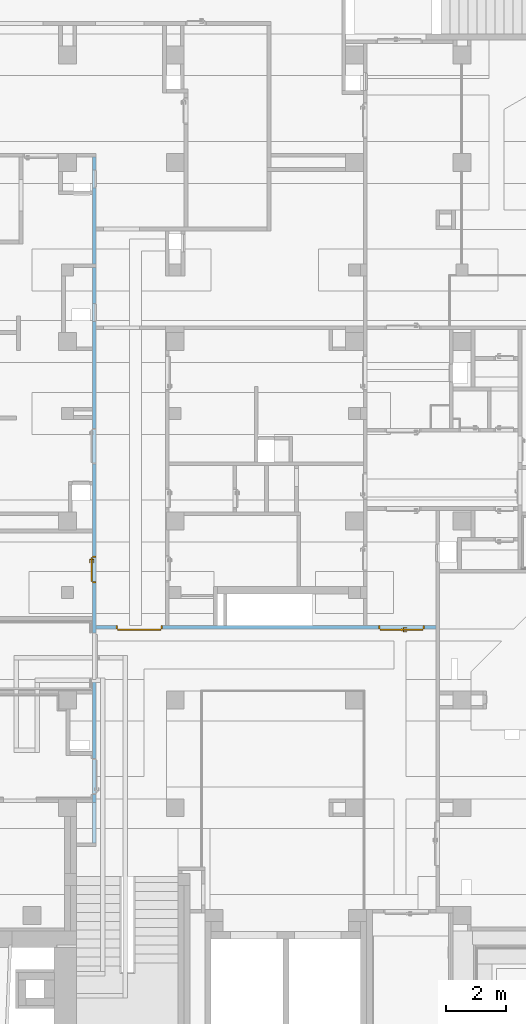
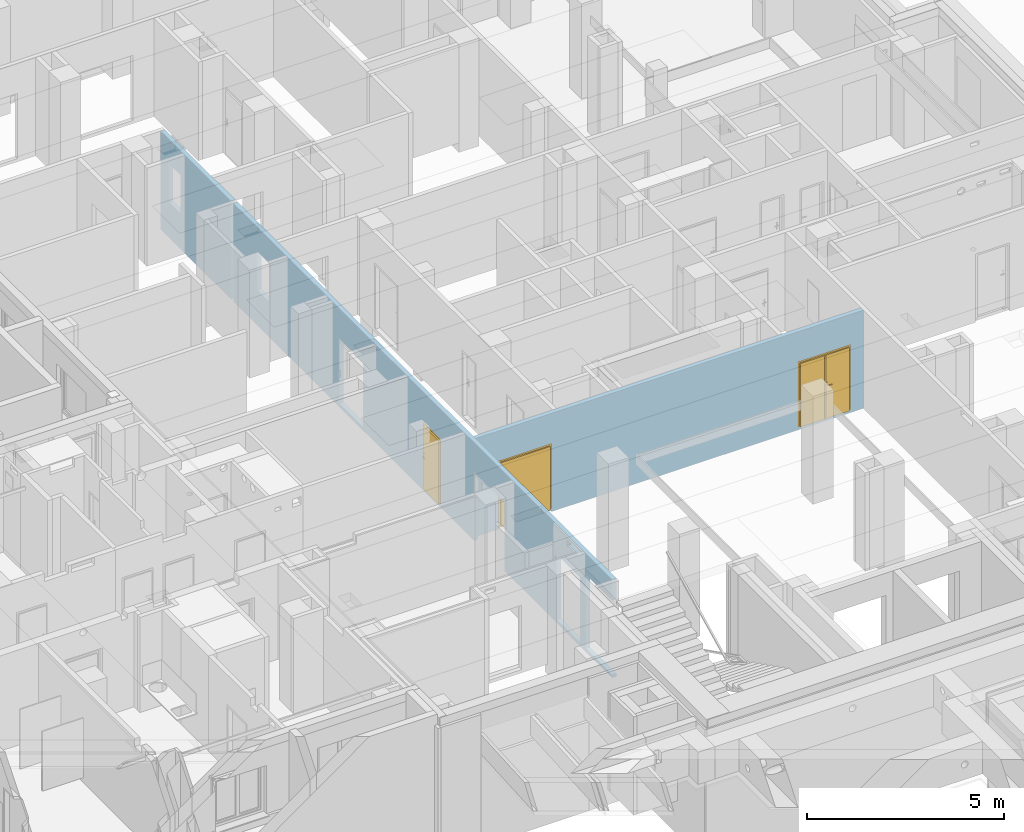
# One storey, part 67 of 84: 3 doors, 10 openings, plus 2 elements that do not belong to this part.
"""IFC4 building model written with IfcOpenShell, lengths in metres."""

from ifc_helpers import new_model, entity, si_unit, converted_unit, derived_unit, frame, frame_2d, origin, origin_with_axes, place, context, subcontext, project, spatial, polyline, rectangle, outline, extrude, closed_shell, open_shell, surface_model, source, transform, mapped, material, layer, layer_set, layer_usage, type_object, element, fill, save


model = new_model("IFC4")

# Units and contexts
model_context = context("Model", 3, precision=1e-05, world=origin())
body_context = subcontext(model_context, "Body", "Model", "MODEL_VIEW")
ifc_project = project(units=[si_unit("LENGTHUNIT", "METRE"), si_unit("AREAUNIT", "SQUARE_METRE"), si_unit("VOLUMEUNIT", "CUBIC_METRE"), si_unit("MASSUNIT", "GRAM", prefix="KILO"), converted_unit("PLANEANGLEUNIT", "DEGREE", entity("IfcPlaneAngleMeasure", 0.0174532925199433), si_unit("PLANEANGLEUNIT", "RADIAN"), dimensions=[0, 0, 0, 0, 0, 0, 0]), derived_unit("THERMALTRANSMITTANCEUNIT", [(si_unit("POWERUNIT", "WATT"), 1), (si_unit("THERMODYNAMICTEMPERATUREUNIT", "KELVIN"), -1), (si_unit("LENGTHUNIT", "METRE"), -2)]), derived_unit("VOLUMETRICFLOWRATEUNIT", [(si_unit("LENGTHUNIT", "METRE"), 3), (converted_unit("TIMEUNIT", "hour", entity("IfcTimeMeasure", 3600.0), si_unit("TIMEUNIT", "SECOND"), dimensions=[0, 0, 1, 0, 0, 0, 0]), -1), (si_unit("LENGTHUNIT", "METRE"), -1)])], contexts=[model_context])

# Site, building, storey
site_placement = place(None, origin())
site = spatial("IfcSite", under=ifc_project, at=site_placement, Name="3. ASŘ", CompositionType="ELEMENT")
building_placement = place(site_placement, origin())
building = spatial("IfcBuilding", under=site, at=building_placement, Name="Pavilon C", CompositionType="ELEMENT")
storey_placement = place(building_placement, frame((0.0, 0.0, -3.3)))
storey = spatial("IfcBuildingStorey", under=building, at=storey_placement, Name="Půdorys 1.PP", CompositionType="ELEMENT", Elevation=-3.3)

# Wall, openings, doors
ifc_material_1 = material(Name="ZDIVO Z CDm")
ifc_layer = layer(ifc_material_1, 0.125)
ifc_layer_set = layer_set([ifc_layer])
ifc_layer_usage = layer_usage(ifc_layer_set, "AXIS2", "POSITIVE", 0.0)
wall_1_placement = place(storey_placement, frame((43.075, 9.69999999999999, -0.1), z_axis=(0.0, 0.0, 1.0), x_axis=(-1.0, 0.0, 0.0)))
wall_1 = element("IfcWall", 1, at=wall_1_placement, inside=storey, material=ifc_layer_usage, Name="ZDIVO Z CDm", context=body_context, shape_type="SweptSolid", body=[
    extrude(rectangle(XDim=11.375, YDim=0.125, at=frame_2d((5.6875, 0.0625), x_axis=(1.0, 0.0))), origin_with_axes(), (0.0, 0.0, 1.0), 3.05),
])
opening_1_placement = place(wall_1_placement, frame((10.7, 0.125, 0.0), z_axis=(0.0, -1.0, 0.0), x_axis=(0.0, 0.0, 1.0)))
opening_1 = element("IfcOpeningElement", 2, at=opening_1_placement, cuts=wall_1, Name="Dveřní otvor", ObjectType="Opening", context=body_context, shape_type="SweptSolid", body=[
    extrude(outline(polyline([(0.0, 1.55), (2.12, 1.55), (2.12, 0.0), (0.0, 0.0), (0.0, 1.55)])), origin_with_axes(), (0.0, 0.0, 1.0), 0.125),
])
opening_2_placement = place(wall_1_placement, frame((0.375, 0.0, 0.1), z_axis=(0.0, 1.0, 0.0), x_axis=(0.0, 0.0, 1.0)))
opening_2 = element("IfcOpeningElement", 3, at=opening_2_placement, cuts=wall_1, Name="Dveřní otvor", ObjectType="Opening", context=body_context, shape_type="SweptSolid", body=[
    extrude(outline(polyline([(0.0, 1.55), (2.02, 1.55), (2.02, 0.0), (0.0, 0.0), (0.0, 1.55)])), origin_with_axes(), (0.0, 0.0, 1.0), 0.125),
])
door_type_1 = type_object("IfcDoorType", Name="D401", OperationType="NOTDEFINED", ParameterTakesPrecedence=False, PredefinedType="DOOR")
shared_shape_1 = source(origin_with_axes(), body_context, "Body", "SurfaceModel", [
    surface_model("IfcShellBasedSurfaceModel", [(0.0, 0.0625, 0.0), (1.55, 0.0625, 0.0), (1.55, 0.0625, 0.099), (0.0, 0.0625, 0.099)], [open_shell([[[0, 1, 2, 3]]], orient=[[False]])]),
    surface_model("IfcShellBasedSurfaceModel", [(0.0, 0.125, 2.12), (0.0, 0.125, 0.1), (0.05, 0.125, 0.1), (0.05, 0.125, 2.12), (0.0, 0.0, 0.1), (0.0, 2.41584530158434e-16, 2.12), (0.05, 2.41584530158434e-16, 2.12), (0.05, 0.0, 0.1)], [closed_shell([[[0, 1, 2, 3]], [[4, 5, 6, 7]], [[1, 0, 5, 4]], [[2, 1, 4, 7]], [[3, 2, 7, 6]], [[0, 3, 6, 5]]], orient=[[False], [False], [False], [False], [False], [False]])]),
    surface_model("IfcShellBasedSurfaceModel", [(1.5, 0.125, 2.12), (1.5, 0.125, 0.1), (1.55, 0.125, 0.1), (1.55, 0.125, 2.12), (1.5, 0.0, 0.1), (1.5, 2.41584530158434e-16, 2.12), (1.55, 2.41584530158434e-16, 2.12), (1.55, 0.0, 0.1)], [closed_shell([[[0, 1, 2, 3]], [[4, 5, 6, 7]], [[1, 0, 5, 4]], [[2, 1, 4, 7]], [[3, 2, 7, 6]], [[0, 3, 6, 5]]], orient=[[False], [False], [False], [False], [False], [False]])]),
    surface_model("IfcShellBasedSurfaceModel", [(0.05, 0.125, 2.12), (0.05, 0.125, 2.07), (1.5, 0.125, 2.07), (1.5, 0.125, 2.12), (0.05, 2.41584530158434e-16, 2.07), (0.05, 2.41584530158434e-16, 2.12), (1.5, 2.41584530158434e-16, 2.12), (1.5, 2.41584530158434e-16, 2.07)], [closed_shell([[[0, 1, 2, 3]], [[4, 5, 6, 7]], [[1, 0, 5, 4]], [[2, 1, 4, 7]], [[3, 2, 7, 6]], [[0, 3, 6, 5]]], orient=[[False], [False], [False], [False], [False], [False]])]),
    surface_model("IfcShellBasedSurfaceModel", [(0.05, 0.165, 2.07), (0.05, 0.165, 0.1), (0.7745, 0.165, 0.1), (0.7745, 0.165, 2.07), (0.05, 0.125, 0.1), (0.05, 0.125, 2.07), (0.7745, 0.125, 2.07), (0.7745, 0.125, 0.1)], [closed_shell([[[0, 1, 2, 3]], [[4, 5, 6, 7]], [[1, 0, 5, 4]], [[2, 1, 4, 7]], [[3, 2, 7, 6]], [[0, 3, 6, 5]]], orient=[[False], [False], [False], [False], [False], [False]])]),
    surface_model("IfcShellBasedSurfaceModel", [(0.7755, 0.165, 2.07), (0.7755, 0.165, 0.1), (1.5, 0.165, 0.1), (1.5, 0.165, 2.07), (0.7755, 0.125, 0.1), (0.7755, 0.125, 2.07), (1.5, 0.125, 2.07), (1.5, 0.125, 0.1)], [closed_shell([[[0, 1, 2, 3]], [[4, 5, 6, 7]], [[1, 0, 5, 4]], [[2, 1, 4, 7]], [[3, 2, 7, 6]], [[0, 3, 6, 5]]], orient=[[False], [False], [False], [False], [False], [False]])]),
])
door_1_placement = place(opening_1_placement, frame((0.0, 1.55, 0.125), z_axis=(1.0, 0.0, 0.0), x_axis=(0.0, -1.0, 1.22464679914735e-16)))
door_1 = element("IfcDoor", 4, at=door_1_placement, inside=storey, type_object=door_type_1, Name="D401", OverallHeight=2.12, OverallWidth=1.55, context=body_context, shape_type="MappedRepresentation", body=[
    mapped(shared_shape_1, transform((0.0, 0.0, 0.0), x_axis=(1.0, 0.0, 0.0), y_axis=(0.0, 1.0, 0.0), z_axis=(0.0, 0.0, 1.0), scale=1.0)),
])
fill(opening_1, door_1)
door_type_2 = type_object("IfcDoorType", Name="D401", OperationType="NOTDEFINED", ParameterTakesPrecedence=False, PredefinedType="DOOR")
shared_shape_2 = source(origin_with_axes(), body_context, "Body", "SurfaceModel", [
    surface_model("IfcShellBasedSurfaceModel", [(0.0, 0.125, 2.02), (0.0, 0.125, -7.65404249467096e-18), (0.05, 0.125, -7.65404249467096e-18), (0.05, 0.125, 2.02), (0.0, 0.0, 7.65404249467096e-18), (0.0, 2.41584530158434e-16, 2.02), (0.05, 2.41584530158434e-16, 2.02), (0.05, 0.0, 7.65404249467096e-18)], [closed_shell([[[0, 1, 2, 3]], [[4, 5, 6, 7]], [[1, 0, 5, 4]], [[2, 1, 4, 7]], [[3, 2, 7, 6]], [[0, 3, 6, 5]]], orient=[[False], [False], [False], [False], [False], [False]])]),
    surface_model("IfcShellBasedSurfaceModel", [(1.5, 0.125, 2.02), (1.5, 0.125, -7.65404249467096e-18), (1.55, 0.125, -7.65404249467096e-18), (1.55, 0.125, 2.02), (1.5, 0.0, 7.65404249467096e-18), (1.5, 2.41584530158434e-16, 2.02), (1.55, 2.41584530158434e-16, 2.02), (1.55, 0.0, 7.65404249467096e-18)], [closed_shell([[[0, 1, 2, 3]], [[4, 5, 6, 7]], [[1, 0, 5, 4]], [[2, 1, 4, 7]], [[3, 2, 7, 6]], [[0, 3, 6, 5]]], orient=[[False], [False], [False], [False], [False], [False]])]),
    surface_model("IfcShellBasedSurfaceModel", [(0.05, 0.125, 2.02), (0.05, 0.125, 1.97), (1.5, 0.125, 1.97), (1.5, 0.125, 2.02), (0.05, 2.41584530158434e-16, 1.97), (0.05, 2.41584530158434e-16, 2.02), (1.5, 2.41584530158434e-16, 2.02), (1.5, 2.41584530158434e-16, 1.97)], [closed_shell([[[0, 1, 2, 3]], [[4, 5, 6, 7]], [[1, 0, 5, 4]], [[2, 1, 4, 7]], [[3, 2, 7, 6]], [[0, 3, 6, 5]]], orient=[[False], [False], [False], [False], [False], [False]])]),
    surface_model("IfcShellBasedSurfaceModel", [(0.05, 0.165, 1.97), (0.05, 0.165, -1.25526296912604e-17), (0.7745, 0.165, -1.25526296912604e-17), (0.7745, 0.165, 1.97), (0.05, 0.125, -7.65404249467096e-18), (0.05, 0.125, 1.97), (0.7745, 0.125, 1.97), (0.7745, 0.125, -7.65404249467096e-18)], [closed_shell([[[0, 1, 2, 3]], [[4, 5, 6, 7]], [[1, 0, 5, 4]], [[2, 1, 4, 7]], [[3, 2, 7, 6]], [[0, 3, 6, 5]]], orient=[[False], [False], [False], [False], [False], [False]])]),
    surface_model("IfcShellBasedSurfaceModel", [(0.7545, 0.165, 1.97), (0.7945, 0.165, 1.97), (0.7945, 0.165, -1.25526296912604e-17), (0.7545, 0.165, -1.25526296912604e-17), (0.7545, 0.185, -1.50019232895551e-17), (0.7945, 0.185, -1.50019232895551e-17), (0.7945, 0.185, 1.97), (0.7545, 0.185, 1.97)], [closed_shell([[[0, 1, 2, 3]], [[4, 5, 6, 7]], [[3, 4, 7, 0]], [[2, 5, 4, 3]], [[1, 6, 5, 2]], [[0, 7, 6, 1]]], orient=[[False], [False], [False], [False], [False], [False]])]),
    surface_model("IfcShellBasedSurfaceModel", [(0.6845, 0.125, 1.125), (0.6845, 0.125, 0.91), (0.7345, 0.125, 0.91), (0.7345, 0.125, 1.125), (0.6845, 0.115, 0.91), (0.6845, 0.115, 1.125), (0.7345, 0.115, 1.125), (0.7345, 0.115, 0.91)], [closed_shell([[[0, 1, 2, 3]], [[4, 5, 6, 7]], [[1, 0, 5, 4]], [[2, 1, 4, 7]], [[3, 2, 7, 6]], [[0, 3, 6, 5]]], orient=[[False], [False], [False], [False], [False], [False]])]),
    surface_model("IfcShellBasedSurfaceModel", [(0.7095, 0.115, 1.06), (0.7045, 0.115, 1.05866025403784), (0.700839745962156, 0.115, 1.055), (0.6995, 0.115, 1.05), (0.700839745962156, 0.115, 1.045), (0.7045, 0.115, 1.04133974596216), (0.7095, 0.115, 1.04), (0.7145, 0.115, 1.04133974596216), (0.718160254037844, 0.115, 1.045), (0.7195, 0.115, 1.05), (0.718160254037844, 0.115, 1.055), (0.7145, 0.115, 1.05866025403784), (0.7145, 0.0700000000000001, 1.05866025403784), (0.7095, 0.0750000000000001, 1.06), (0.718160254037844, 0.0663397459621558, 1.055), (0.7195, 0.0650000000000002, 1.05), (0.718160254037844, 0.0663397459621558, 1.045), (0.7145, 0.0700000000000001, 1.04133974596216), (0.7095, 0.0750000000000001, 1.04), (0.7045, 0.0800000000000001, 1.04133974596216), (0.700839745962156, 0.0836602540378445, 1.045), (0.6995, 0.0850000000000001, 1.05), (0.700839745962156, 0.0836602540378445, 1.055), (0.7045, 0.0800000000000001, 1.05866025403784), (0.5945, 0.0700000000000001, 1.05866025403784), (0.5945, 0.0750000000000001, 1.06), (0.5945, 0.0663397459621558, 1.055), (0.5945, 0.0650000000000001, 1.05), (0.5945, 0.0663397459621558, 1.045), (0.5945, 0.0700000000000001, 1.04133974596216), (0.5945, 0.0750000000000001, 1.04), (0.5945, 0.0800000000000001, 1.04133974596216), (0.5945, 0.0836602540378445, 1.045), (0.5945, 0.0850000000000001, 1.05), (0.5945, 0.0836602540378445, 1.055), (0.5945, 0.0800000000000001, 1.05866025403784)], [open_shell([[[0, 1, 2, 3, 4, 5, 6, 7, 8, 9, 10, 11]], [[0, 11, 12, 13]], [[11, 10, 14, 12]], [[10, 9, 15, 14]], [[9, 8, 16, 15]], [[8, 7, 17, 16]], [[7, 6, 18, 17]], [[6, 5, 19, 18]], [[5, 4, 20, 19]], [[4, 3, 21, 20]], [[3, 2, 22, 21]], [[2, 1, 23, 22]], [[1, 0, 13, 23]], [[13, 12, 24, 25]], [[12, 14, 26, 24]], [[14, 15, 27, 26]], [[15, 16, 28, 27]], [[16, 17, 29, 28]], [[17, 18, 30, 29]], [[18, 19, 31, 30]], [[19, 20, 32, 31]], [[20, 21, 33, 32]], [[21, 22, 34, 33]], [[22, 23, 35, 34]], [[23, 13, 25, 35]]], orient=[[False], [False], [False], [False], [False], [False], [False], [False], [False], [False], [False], [False], [False], [False], [False], [False], [False], [False], [False], [False], [False], [False], [False], [False], [False]])]),
    surface_model("IfcShellBasedSurfaceModel", [(0.6845, 0.165, 1.125), (0.7345, 0.165, 1.125), (0.7345, 0.165, 0.91), (0.6845, 0.165, 0.91), (0.6845, 0.175, 0.91), (0.7345, 0.175, 0.91), (0.7345, 0.175, 1.125), (0.6845, 0.175, 1.125)], [closed_shell([[[0, 1, 2, 3]], [[4, 5, 6, 7]], [[3, 4, 7, 0]], [[2, 5, 4, 3]], [[1, 6, 5, 2]], [[0, 7, 6, 1]]], orient=[[False], [False], [False], [False], [False], [False]])]),
    surface_model("IfcShellBasedSurfaceModel", [(0.7095, 0.175, 1.06), (0.7145, 0.175, 1.05866025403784), (0.718160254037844, 0.175, 1.055), (0.7195, 0.175, 1.05), (0.718160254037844, 0.175, 1.045), (0.7145, 0.175, 1.04133974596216), (0.7095, 0.175, 1.04), (0.7045, 0.175, 1.04133974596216), (0.700839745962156, 0.175, 1.045), (0.6995, 0.175, 1.05), (0.700839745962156, 0.175, 1.055), (0.7045, 0.175, 1.05866025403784), (0.7095, 0.215, 1.06), (0.7145, 0.22, 1.05866025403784), (0.718160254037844, 0.223660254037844, 1.055), (0.7195, 0.225, 1.05), (0.718160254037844, 0.223660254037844, 1.045), (0.7145, 0.22, 1.04133974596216), (0.7095, 0.215, 1.04), (0.7045, 0.21, 1.04133974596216), (0.700839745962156, 0.206339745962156, 1.045), (0.6995, 0.205, 1.05), (0.700839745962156, 0.206339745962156, 1.055), (0.7045, 0.21, 1.05866025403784), (0.5945, 0.215, 1.06), (0.5945, 0.22, 1.05866025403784), (0.5945, 0.223660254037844, 1.055), (0.5945, 0.225, 1.05), (0.5945, 0.223660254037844, 1.045), (0.5945, 0.22, 1.04133974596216), (0.5945, 0.215, 1.04), (0.5945, 0.21, 1.04133974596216), (0.5945, 0.206339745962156, 1.045), (0.5945, 0.205, 1.05), (0.5945, 0.206339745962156, 1.055), (0.5945, 0.21, 1.05866025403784)], [open_shell([[[0, 1, 2, 3, 4, 5, 6, 7, 8, 9, 10, 11]], [[0, 12, 13, 1]], [[1, 13, 14, 2]], [[2, 14, 15, 3]], [[3, 15, 16, 4]], [[4, 16, 17, 5]], [[5, 17, 18, 6]], [[6, 18, 19, 7]], [[7, 19, 20, 8]], [[8, 20, 21, 9]], [[9, 21, 22, 10]], [[10, 22, 23, 11]], [[11, 23, 12, 0]], [[12, 24, 25, 13]], [[13, 25, 26, 14]], [[14, 26, 27, 15]], [[15, 27, 28, 16]], [[16, 28, 29, 17]], [[17, 29, 30, 18]], [[18, 30, 31, 19]], [[19, 31, 32, 20]], [[20, 32, 33, 21]], [[21, 33, 34, 22]], [[22, 34, 35, 23]], [[23, 35, 24, 12]]], orient=[[False], [False], [False], [False], [False], [False], [False], [False], [False], [False], [False], [False], [False], [False], [False], [False], [False], [False], [False], [False], [False], [False], [False], [False], [False]])]),
    surface_model("IfcShellBasedSurfaceModel", [(0.7755, 0.165, 1.97), (0.7755, 0.165, -1.25526296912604e-17), (1.5, 0.165, -1.25526296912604e-17), (1.5, 0.165, 1.97), (0.7755, 0.125, -7.65404249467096e-18), (0.7755, 0.125, 1.97), (1.5, 0.125, 1.97), (1.5, 0.125, -7.65404249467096e-18)], [closed_shell([[[0, 1, 2, 3]], [[4, 5, 6, 7]], [[1, 0, 5, 4]], [[2, 1, 4, 7]], [[3, 2, 7, 6]], [[0, 3, 6, 5]]], orient=[[False], [False], [False], [False], [False], [False]])]),
    surface_model("IfcShellBasedSurfaceModel", [(0.7555, 0.125, 1.97), (0.7555, 0.125, -7.65404249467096e-18), (0.7955, 0.125, -7.65404249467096e-18), (0.7955, 0.125, 1.97), (0.7555, 0.105, -5.20474889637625e-18), (0.7555, 0.105, 1.97), (0.7955, 0.105, 1.97), (0.7955, 0.105, -5.20474889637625e-18)], [closed_shell([[[0, 1, 2, 3]], [[4, 5, 6, 7]], [[1, 0, 5, 4]], [[2, 1, 4, 7]], [[3, 2, 7, 6]], [[0, 3, 6, 5]]], orient=[[False], [False], [False], [False], [False], [False]])]),
])
door_2_placement = place(opening_2_placement, frame((0.0, 0.0, 0.0), z_axis=(1.0, 0.0, 0.0), x_axis=(0.0, 1.0, -1.22464679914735e-16)))
door_2 = element("IfcDoor", 5, at=door_2_placement, inside=storey, type_object=door_type_2, Name="D401", OverallHeight=2.02, OverallWidth=1.55, context=body_context, shape_type="MappedRepresentation", body=[
    mapped(shared_shape_2, transform((0.0, 0.0, 0.0), x_axis=(1.0, 0.0, 0.0), y_axis=(0.0, 1.0, 0.0), z_axis=(0.0, 0.0, 1.0), scale=1.0)),
])
fill(opening_2, door_2)

# Wall, openings, door
ifc_material_2 = material(Name="ZDIVO Z CDm")
wall_2_placement = place(storey_placement, frame((31.575, 25.375, -0.1), z_axis=(0.0, 0.0, 1.0), x_axis=(0.0, -1.0, 0.0)))
wall_2 = element("IfcWall", 6, at=wall_2_placement, inside=storey, material=ifc_material_2, Name="ZDIVO Z CDm", context=body_context, shape_type="SweptSolid", body=[
    extrude(rectangle(XDim=19.25, YDim=0.125, at=frame_2d((-9.625, -0.0625), x_axis=(-1.0, 0.0))), frame((22.95, 0.125, 0.0), z_axis=(0.0, 0.0, 1.0), x_axis=(1.0, 0.0, 0.0)), (0.0, 0.0, 1.0), 3.05),
    extrude(rectangle(XDim=3.575, YDim=0.125, at=frame_2d((1.7875, 0.0625), x_axis=(1.0, 0.0))), origin_with_axes(), (0.0, 0.0, 1.0), 3.05),
])
opening_3_placement = place(wall_2_placement, frame((15.925, 0.0, 0.0), z_axis=(0.0, 1.0, 0.0), x_axis=(0.0, 0.0, 1.0)))
element("IfcOpeningElement", 7, at=opening_3_placement, cuts=wall_2, Name="Dveřní otvor", ObjectType="Opening", context=body_context, shape_type="SweptSolid", body=[
    extrude(outline(polyline([(0.0, 1.55), (2.12, 1.55), (2.12, 0.0), (0.0, 0.0), (0.0, 1.55)])), origin_with_axes(), (0.0, 0.0, 1.0), 0.125),
])
opening_4_placement = place(wall_2_placement, frame((22.95, 0.125, 0.1), z_axis=(0.0, -1.0, 0.0), x_axis=(0.0, 0.0, 1.0)))
element("IfcOpeningElement", 8, at=opening_4_placement, cuts=wall_2, Name="Dveřní otvor", ObjectType="Opening", context=body_context, shape_type="SweptSolid", body=[
    extrude(outline(polyline([(0.0, 1.35), (2.3, 1.35), (2.3, 0.0), (0.0, 0.0), (0.0, 1.35)])), origin_with_axes(), (0.0, 0.0, 1.0), 0.125),
])
opening_5_placement = place(wall_2_placement, frame((9.07500000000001, 0.0, 0.1), z_axis=(0.0, 1.0, 0.0), x_axis=(0.0, 0.0, 1.0)))
element("IfcOpeningElement", 9, at=opening_5_placement, cuts=wall_2, Name="Dveřní otvor", ObjectType="Opening", context=body_context, shape_type="SweptSolid", body=[
    extrude(outline(polyline([(0.0, 1.2), (2.02, 1.2), (2.02, 0.0), (0.0, 0.0), (0.0, 1.2)])), origin_with_axes(), (0.0, 0.0, 1.0), 0.125),
])
opening_6_placement = place(wall_2_placement, frame((13.35, 0.0, 0.1), z_axis=(0.0, 1.0, 0.0), x_axis=(0.0, 0.0, 1.0)))
opening_6 = element("IfcOpeningElement", 10, at=opening_6_placement, cuts=wall_2, Name="Dveřní otvor", ObjectType="Opening", context=body_context, shape_type="SweptSolid", body=[
    extrude(outline(polyline([(0.0, 0.9), (2.02, 0.9), (2.02, 0.0), (0.0, 0.0), (0.0, 0.9)])), origin_with_axes(), (0.0, 0.0, 1.0), 0.125),
])
opening_7_placement = place(wall_2_placement, frame((1.025, 0.125, 1.1), z_axis=(0.0, -1.0, 0.0), x_axis=(0.0, 0.0, 1.0)))
element("IfcOpeningElement", 11, at=opening_7_placement, cuts=wall_2, Name="Okenní otvor", ObjectType="Opening", context=body_context, shape_type="SweptSolid", body=[
    extrude(outline(polyline([(0.0, 0.6), (1.2, 0.6), (1.2, 0.0), (0.0, 0.0), (0.0, 0.6)])), origin_with_axes(), (0.0, 0.0, 1.0), 0.125),
])
opening_8_placement = place(wall_2_placement, frame((5.5, 0.125, 1.1), z_axis=(0.0, -1.0, 0.0), x_axis=(0.0, 0.0, 1.0)))
element("IfcOpeningElement", 12, at=opening_8_placement, cuts=wall_2, Name="Okenní otvor", ObjectType="Opening", context=body_context, shape_type="SweptSolid", body=[
    extrude(outline(polyline([(0.0, 0.6), (1.2, 0.6), (1.2, 0.0), (0.0, 0.0), (0.0, 0.6)])), origin_with_axes(), (0.0, 0.0, 1.0), 0.125),
])
opening_9_placement = place(wall_2_placement, frame((21.325, 0.125, 0.1), z_axis=(0.0, -1.0, 0.0), x_axis=(0.0, 0.0, 1.0)))
element("IfcOpeningElement", 13, at=opening_9_placement, cuts=wall_2, Name="Dveřní otvor", ObjectType="Opening", context=body_context, shape_type="SweptSolid", body=[
    extrude(outline(polyline([(0.0, 1.2), (2.02, 1.2), (2.02, 0.0), (0.0, 0.0), (0.0, 1.2)])), origin_with_axes(), (0.0, 0.0, 1.0), 0.125),
])
opening_10_placement = place(wall_2_placement, frame((21.3498613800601, 0.125, 2.8), z_axis=(0.0, -1.0, 0.0), x_axis=(0.0, 0.0, 1.0)))
element("IfcOpeningElement", 14, at=opening_10_placement, cuts=wall_2, Name="UT", ObjectType="Opening", context=body_context, shape_type="SweptSolid", body=[
    extrude(outline(polyline([(0.0, 0.599999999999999), (0.15, 0.599999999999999), (0.15, 0.0), (0.0, 0.0), (0.0, 0.599999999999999)])), origin_with_axes(), (0.0, 0.0, 1.0), 0.125),
])
door_type_3 = type_object("IfcDoorType", Name="D101", OperationType="NOTDEFINED", ParameterTakesPrecedence=False, PredefinedType="DOOR")
shared_shape_3 = source(origin_with_axes(), body_context, "Body", "SurfaceModel", [
    surface_model("IfcShellBasedSurfaceModel", [(0.0, 0.125, 2.02), (0.0, 0.125, -7.65404249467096e-18), (0.05, 0.125, -7.65404249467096e-18), (0.05, 0.125, 2.02), (0.0, 0.0, 7.65404249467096e-18), (0.0, 2.41584530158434e-16, 2.02), (0.05, 2.41584530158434e-16, 2.02), (0.05, 0.0, 7.65404249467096e-18)], [closed_shell([[[0, 1, 2, 3]], [[4, 5, 6, 7]], [[1, 0, 5, 4]], [[2, 1, 4, 7]], [[3, 2, 7, 6]], [[0, 3, 6, 5]]], orient=[[False], [False], [False], [False], [False], [False]])]),
    surface_model("IfcShellBasedSurfaceModel", [(0.85, 0.125, 2.02), (0.85, 0.125, -7.65404249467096e-18), (0.9, 0.125, -7.65404249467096e-18), (0.9, 0.125, 2.02), (0.85, 0.0, 7.65404249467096e-18), (0.85, 2.41584530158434e-16, 2.02), (0.9, 2.41584530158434e-16, 2.02), (0.9, 0.0, 7.65404249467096e-18)], [closed_shell([[[0, 1, 2, 3]], [[4, 5, 6, 7]], [[1, 0, 5, 4]], [[2, 1, 4, 7]], [[3, 2, 7, 6]], [[0, 3, 6, 5]]], orient=[[False], [False], [False], [False], [False], [False]])]),
    surface_model("IfcShellBasedSurfaceModel", [(0.05, 0.125, 2.02), (0.05, 0.125, 1.97), (0.85, 0.125, 1.97), (0.85, 0.125, 2.02), (0.05, 2.41584530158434e-16, 1.97), (0.05, 2.41584530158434e-16, 2.02), (0.85, 2.41584530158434e-16, 2.02), (0.85, 2.41584530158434e-16, 1.97)], [closed_shell([[[0, 1, 2, 3]], [[4, 5, 6, 7]], [[1, 0, 5, 4]], [[2, 1, 4, 7]], [[3, 2, 7, 6]], [[0, 3, 6, 5]]], orient=[[False], [False], [False], [False], [False], [False]])]),
    surface_model("IfcShellBasedSurfaceModel", [(0.05, 0.165, 1.97), (0.05, 0.165, -1.25526296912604e-17), (0.85, 0.165, -1.25526296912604e-17), (0.85, 0.165, 1.97), (0.05, 0.125, -7.65404249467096e-18), (0.05, 0.125, 1.97), (0.85, 0.125, 1.97), (0.85, 0.125, -7.65404249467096e-18)], [closed_shell([[[0, 1, 2, 3]], [[4, 5, 6, 7]], [[1, 0, 5, 4]], [[2, 1, 4, 7]], [[3, 2, 7, 6]], [[0, 3, 6, 5]]], orient=[[False], [False], [False], [False], [False], [False]])]),
    surface_model("IfcShellBasedSurfaceModel", [(0.76, 0.125, 1.125), (0.76, 0.125, 0.91), (0.81, 0.125, 0.91), (0.81, 0.125, 1.125), (0.76, 0.115, 0.91), (0.76, 0.115, 1.125), (0.81, 0.115, 1.125), (0.81, 0.115, 0.91)], [closed_shell([[[0, 1, 2, 3]], [[4, 5, 6, 7]], [[1, 0, 5, 4]], [[2, 1, 4, 7]], [[3, 2, 7, 6]], [[0, 3, 6, 5]]], orient=[[False], [False], [False], [False], [False], [False]])]),
    surface_model("IfcShellBasedSurfaceModel", [(0.785, 0.115, 1.06), (0.78, 0.115, 1.05866025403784), (0.776339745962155, 0.115, 1.055), (0.775, 0.115, 1.05), (0.776339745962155, 0.115, 1.045), (0.78, 0.115, 1.04133974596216), (0.785, 0.115, 1.04), (0.79, 0.115, 1.04133974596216), (0.793660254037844, 0.115, 1.045), (0.795, 0.115, 1.05), (0.793660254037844, 0.115, 1.055), (0.79, 0.115, 1.05866025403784), (0.79, 0.0700000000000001, 1.05866025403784), (0.785, 0.0750000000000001, 1.06), (0.793660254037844, 0.0663397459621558, 1.055), (0.795, 0.0650000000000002, 1.05), (0.793660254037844, 0.0663397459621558, 1.045), (0.79, 0.0700000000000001, 1.04133974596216), (0.785, 0.0750000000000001, 1.04), (0.78, 0.0800000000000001, 1.04133974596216), (0.776339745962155, 0.0836602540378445, 1.045), (0.775, 0.0850000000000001, 1.05), (0.776339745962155, 0.0836602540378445, 1.055), (0.78, 0.0800000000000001, 1.05866025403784), (0.67, 0.0700000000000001, 1.05866025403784), (0.67, 0.0750000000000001, 1.06), (0.67, 0.0663397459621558, 1.055), (0.67, 0.0650000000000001, 1.05), (0.67, 0.0663397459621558, 1.045), (0.67, 0.0700000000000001, 1.04133974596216), (0.67, 0.0750000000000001, 1.04), (0.67, 0.0800000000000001, 1.04133974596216), (0.67, 0.0836602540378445, 1.045), (0.67, 0.0850000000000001, 1.05), (0.67, 0.0836602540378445, 1.055), (0.67, 0.0800000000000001, 1.05866025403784)], [open_shell([[[0, 1, 2, 3, 4, 5, 6, 7, 8, 9, 10, 11]], [[0, 11, 12, 13]], [[11, 10, 14, 12]], [[10, 9, 15, 14]], [[9, 8, 16, 15]], [[8, 7, 17, 16]], [[7, 6, 18, 17]], [[6, 5, 19, 18]], [[5, 4, 20, 19]], [[4, 3, 21, 20]], [[3, 2, 22, 21]], [[2, 1, 23, 22]], [[1, 0, 13, 23]], [[13, 12, 24, 25]], [[12, 14, 26, 24]], [[14, 15, 27, 26]], [[15, 16, 28, 27]], [[16, 17, 29, 28]], [[17, 18, 30, 29]], [[18, 19, 31, 30]], [[19, 20, 32, 31]], [[20, 21, 33, 32]], [[21, 22, 34, 33]], [[22, 23, 35, 34]], [[23, 13, 25, 35]]], orient=[[False], [False], [False], [False], [False], [False], [False], [False], [False], [False], [False], [False], [False], [False], [False], [False], [False], [False], [False], [False], [False], [False], [False], [False], [False]])]),
    surface_model("IfcShellBasedSurfaceModel", [(0.76, 0.165, 1.125), (0.81, 0.165, 1.125), (0.81, 0.165, 0.91), (0.76, 0.165, 0.91), (0.76, 0.175, 0.91), (0.81, 0.175, 0.91), (0.81, 0.175, 1.125), (0.76, 0.175, 1.125)], [closed_shell([[[0, 1, 2, 3]], [[4, 5, 6, 7]], [[3, 4, 7, 0]], [[2, 5, 4, 3]], [[1, 6, 5, 2]], [[0, 7, 6, 1]]], orient=[[False], [False], [False], [False], [False], [False]])]),
    surface_model("IfcShellBasedSurfaceModel", [(0.785, 0.175, 1.06), (0.79, 0.175, 1.05866025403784), (0.793660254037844, 0.175, 1.055), (0.795, 0.175, 1.05), (0.793660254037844, 0.175, 1.045), (0.79, 0.175, 1.04133974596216), (0.785, 0.175, 1.04), (0.78, 0.175, 1.04133974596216), (0.776339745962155, 0.175, 1.045), (0.775, 0.175, 1.05), (0.776339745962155, 0.175, 1.055), (0.78, 0.175, 1.05866025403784), (0.785, 0.215, 1.06), (0.79, 0.22, 1.05866025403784), (0.793660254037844, 0.223660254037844, 1.055), (0.795, 0.225, 1.05), (0.793660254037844, 0.223660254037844, 1.045), (0.79, 0.22, 1.04133974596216), (0.785, 0.215, 1.04), (0.78, 0.21, 1.04133974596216), (0.776339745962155, 0.206339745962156, 1.045), (0.775, 0.205, 1.05), (0.776339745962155, 0.206339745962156, 1.055), (0.78, 0.21, 1.05866025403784), (0.67, 0.215, 1.06), (0.67, 0.22, 1.05866025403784), (0.67, 0.223660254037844, 1.055), (0.67, 0.225, 1.05), (0.67, 0.223660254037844, 1.045), (0.67, 0.22, 1.04133974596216), (0.67, 0.215, 1.04), (0.67, 0.21, 1.04133974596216), (0.67, 0.206339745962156, 1.045), (0.67, 0.205, 1.05), (0.67, 0.206339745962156, 1.055), (0.67, 0.21, 1.05866025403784)], [open_shell([[[0, 1, 2, 3, 4, 5, 6, 7, 8, 9, 10, 11]], [[0, 12, 13, 1]], [[1, 13, 14, 2]], [[2, 14, 15, 3]], [[3, 15, 16, 4]], [[4, 16, 17, 5]], [[5, 17, 18, 6]], [[6, 18, 19, 7]], [[7, 19, 20, 8]], [[8, 20, 21, 9]], [[9, 21, 22, 10]], [[10, 22, 23, 11]], [[11, 23, 12, 0]], [[12, 24, 25, 13]], [[13, 25, 26, 14]], [[14, 26, 27, 15]], [[15, 27, 28, 16]], [[16, 28, 29, 17]], [[17, 29, 30, 18]], [[18, 30, 31, 19]], [[19, 31, 32, 20]], [[20, 32, 33, 21]], [[21, 33, 34, 22]], [[22, 34, 35, 23]], [[23, 35, 24, 12]]], orient=[[False], [False], [False], [False], [False], [False], [False], [False], [False], [False], [False], [False], [False], [False], [False], [False], [False], [False], [False], [False], [False], [False], [False], [False], [False]])]),
])
door_3_placement = place(opening_6_placement, frame((0.0, 0.900000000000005, 0.124999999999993), z_axis=(1.0, 0.0, 0.0), x_axis=(0.0, -1.0, 1.22464679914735e-16)))
door_3 = element("IfcDoor", 15, at=door_3_placement, inside=storey, type_object=door_type_3, Name="D101", OverallHeight=2.02, OverallWidth=0.9, context=body_context, shape_type="MappedRepresentation", body=[
    mapped(shared_shape_3, transform((0.0, 0.0, 0.0), x_axis=(1.0, 0.0, 0.0), y_axis=(0.0, 1.0, 0.0), z_axis=(0.0, 0.0, 1.0), scale=1.0)),
])
fill(opening_6, door_3)

save(model, "model.ifc")
